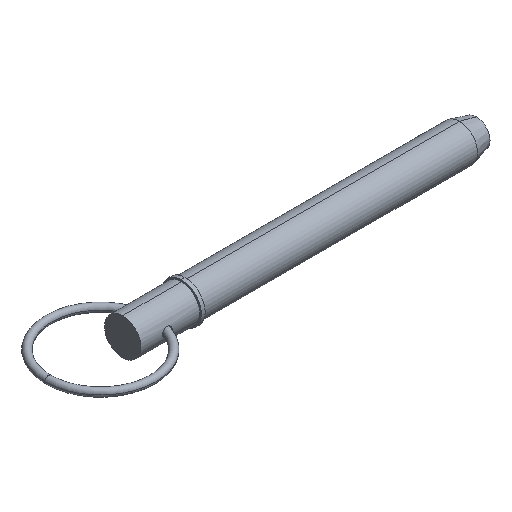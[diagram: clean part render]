
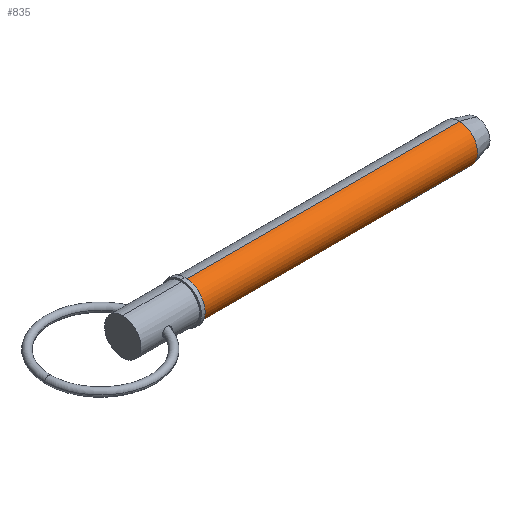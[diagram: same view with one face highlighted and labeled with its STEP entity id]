
A CAD part, isometric view. The second image highlights one B-rep face of the part: STEP entity #835.
In plain terms, the highlighted cylindrical face has radius 11.115 mm (diameter 22.23 mm), a partial arc.
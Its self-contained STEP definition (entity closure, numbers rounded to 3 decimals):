
#39 = VECTOR ( 'NONE', #357, 1000. ) ;
#75 = DIRECTION ( 'NONE',  ( 1., 0., 0. ) ) ;
#101 = VERTEX_POINT ( 'NONE', #472 ) ;
#103 = DIRECTION ( 'NONE',  ( 1., 0., 0. ) ) ;
#117 = EDGE_CURVE ( 'NONE', #1006, #725, #747, .T. ) ;
#135 = ORIENTED_EDGE ( 'NONE', *, *, #1051, .F. ) ;
#255 = CARTESIAN_POINT ( 'NONE',  ( 0., 0., -11.115 ) ) ;
#271 = EDGE_LOOP ( 'NONE', ( #135, #363, #349, #295 ) ) ;
#295 = ORIENTED_EDGE ( 'NONE', *, *, #697, .F. ) ;
#318 = CIRCLE ( 'NONE', #844, 11.115 ) ;
#344 = LINE ( 'NONE', #350, #39 ) ;
#349 = ORIENTED_EDGE ( 'NONE', *, *, #117, .T. ) ;
#350 = CARTESIAN_POINT ( 'NONE',  ( 0., 0., 11.115 ) ) ;
#357 = DIRECTION ( 'NONE',  ( 1., 0., 0. ) ) ;
#363 = ORIENTED_EDGE ( 'NONE', *, *, #577, .T. ) ;
#373 = DIRECTION ( 'NONE',  ( 1., 0., 0. ) ) ;
#378 = DIRECTION ( 'NONE',  ( 0., 0., -1. ) ) ;
#389 = AXIS2_PLACEMENT_3D ( 'NONE', #407, #75, #495 ) ;
#392 = CARTESIAN_POINT ( 'NONE',  ( 205.53, 0., 11.115 ) ) ;
#407 = CARTESIAN_POINT ( 'NONE',  ( 0., 0., 0. ) ) ;
#467 = AXIS2_PLACEMENT_3D ( 'NONE', #532, #373, #378 ) ;
#472 = CARTESIAN_POINT ( 'NONE',  ( 38.1, 0., 11.115 ) ) ;
#495 = DIRECTION ( 'NONE',  ( 0., 0., -1. ) ) ;
#520 = CARTESIAN_POINT ( 'NONE',  ( 38.1, 0., -11.115 ) ) ;
#532 = CARTESIAN_POINT ( 'NONE',  ( 205.53, 0., 0. ) ) ;
#558 = CARTESIAN_POINT ( 'NONE',  ( 205.53, 0., -11.115 ) ) ;
#577 = EDGE_CURVE ( 'NONE', #101, #1006, #318, .T. ) ;
#697 = EDGE_CURVE ( 'NONE', #737, #725, #827, .T. ) ;
#699 = VECTOR ( 'NONE', #103, 1000. ) ;
#704 = DIRECTION ( 'NONE',  ( 0., 0., -1. ) ) ;
#715 = CARTESIAN_POINT ( 'NONE',  ( 38.1, 0., 0. ) ) ;
#725 = VERTEX_POINT ( 'NONE', #558 ) ;
#737 = VERTEX_POINT ( 'NONE', #392 ) ;
#747 = LINE ( 'NONE', #255, #699 ) ;
#827 = CIRCLE ( 'NONE', #467, 11.115 ) ;
#835 = ADVANCED_FACE ( 'NONE', ( #996 ), #990, .T. ) ;
#844 = AXIS2_PLACEMENT_3D ( 'NONE', #715, #880, #704 ) ;
#880 = DIRECTION ( 'NONE',  ( 1., 0., 0. ) ) ;
#990 = CYLINDRICAL_SURFACE ( 'NONE', #389, 11.115 ) ;
#996 = FACE_OUTER_BOUND ( 'NONE', #271, .T. ) ;
#1006 = VERTEX_POINT ( 'NONE', #520 ) ;
#1051 = EDGE_CURVE ( 'NONE', #101, #737, #344, .T. ) ;
